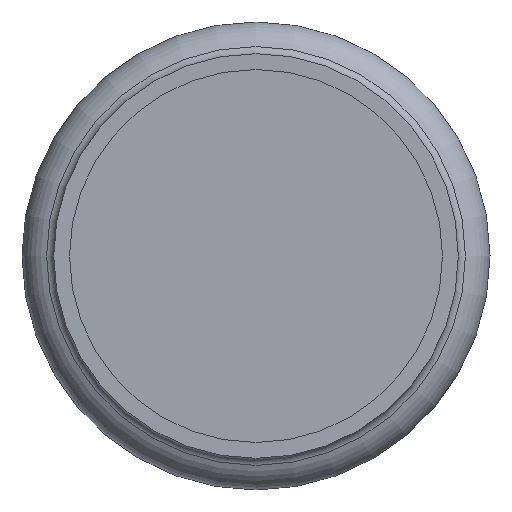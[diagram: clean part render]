
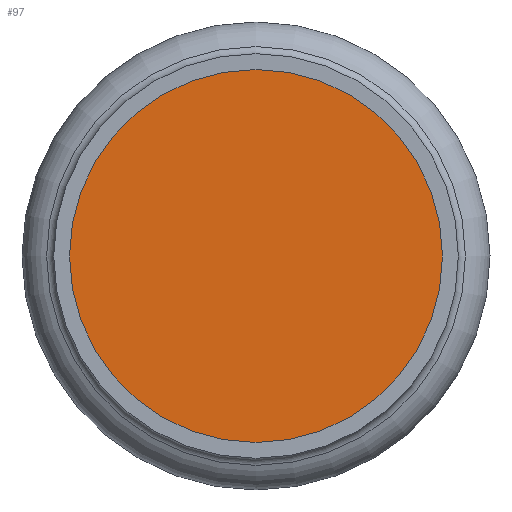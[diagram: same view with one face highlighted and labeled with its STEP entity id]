
A CAD part, front view. The second image highlights one B-rep face of the part: STEP entity #97.
In plain terms, the highlighted planar face has unit normal (0, -1, 0).
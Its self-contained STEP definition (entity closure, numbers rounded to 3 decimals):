
#97=ADVANCED_FACE('',(#444),#446,.T.);
#444=FACE_BOUND('',#445,.T.);
#445=EDGE_LOOP('',(#608));
#446=PLANE('',#447);
#447=AXIS2_PLACEMENT_3D('',#448,#449,#450);
#448=CARTESIAN_POINT('',(0.,7.257,0.));
#449=DIRECTION('',(0.,-1.,0.));
#450=DIRECTION('',(0.,0.,-1.));
#608=ORIENTED_EDGE('',*,*,#687,.T.);
#687=EDGE_CURVE('',#820,#820,#821,.F.);
#820=VERTEX_POINT('',#2034);
#821=CIRCLE('',#2035,17.65);
#2034=CARTESIAN_POINT('',(0.,7.257,17.65));
#2035=AXIS2_PLACEMENT_3D('',#2036,#2037,#2038);
#2036=CARTESIAN_POINT('',(0.,7.257,0.));
#2037=DIRECTION('',(0.,1.,0.));
#2038=DIRECTION('',(0.,0.,1.));
